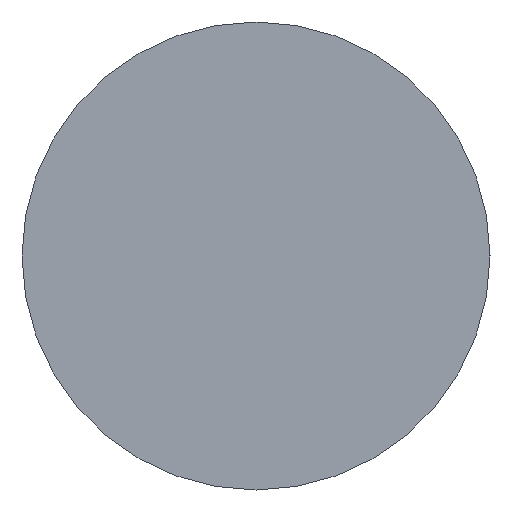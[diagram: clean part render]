
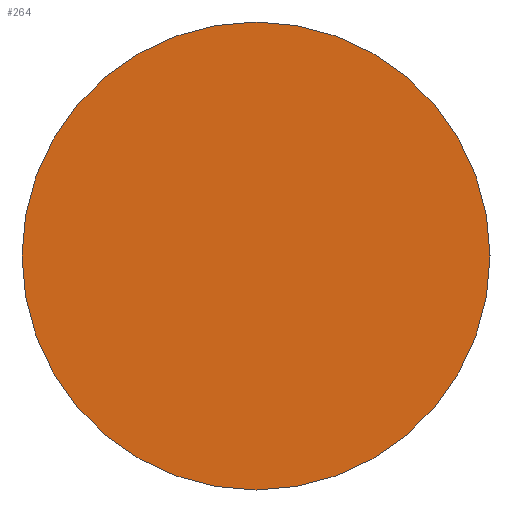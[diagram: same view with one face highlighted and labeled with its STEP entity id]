
A CAD part, left-side view. The second image highlights one B-rep face of the part: STEP entity #264.
In plain terms, the highlighted planar face has unit normal (-1, 0, 0).
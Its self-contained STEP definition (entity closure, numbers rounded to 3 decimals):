
#3 = ORIENTED_EDGE ( 'NONE', *, *, #251, .F. ) ;
#5 = PLANE ( 'NONE',  #139 ) ;
#8 = DIRECTION ( 'NONE',  ( 0., -1., 0. ) ) ;
#9 = CARTESIAN_POINT ( 'NONE',  ( 0., 0., 0. ) ) ;
#10 = DIRECTION ( 'NONE',  ( 1., 0., 0. ) ) ;
#14 = CARTESIAN_POINT ( 'NONE',  ( 0., 0., 0. ) ) ;
#35 = AXIS2_PLACEMENT_3D ( 'NONE', #102, #184, #84 ) ;
#36 = CARTESIAN_POINT ( 'NONE',  ( 0., 9., 0. ) ) ;
#39 = AXIS2_PLACEMENT_3D ( 'NONE', #9, #10, #250 ) ;
#45 = VERTEX_POINT ( 'NONE', #36 ) ;
#84 = DIRECTION ( 'NONE',  ( 0., 1., 0. ) ) ;
#102 = CARTESIAN_POINT ( 'NONE',  ( 0., 0., 0. ) ) ;
#124 = CARTESIAN_POINT ( 'NONE',  ( 0., -9., 0. ) ) ;
#125 = EDGE_CURVE ( 'NONE', #45, #157, #243, .T. ) ;
#132 = FACE_OUTER_BOUND ( 'NONE', #180, .T. ) ;
#139 = AXIS2_PLACEMENT_3D ( 'NONE', #14, #193, #8 ) ;
#157 = VERTEX_POINT ( 'NONE', #124 ) ;
#180 = EDGE_LOOP ( 'NONE', ( #247, #3 ) ) ;
#184 = DIRECTION ( 'NONE',  ( 1., 0., 0. ) ) ;
#186 = CIRCLE ( 'NONE', #39, 9. ) ;
#193 = DIRECTION ( 'NONE',  ( -1., 0., 0. ) ) ;
#243 = CIRCLE ( 'NONE', #35, 9. ) ;
#247 = ORIENTED_EDGE ( 'NONE', *, *, #125, .F. ) ;
#250 = DIRECTION ( 'NONE',  ( 0., 1., 0. ) ) ;
#251 = EDGE_CURVE ( 'NONE', #157, #45, #186, .T. ) ;
#264 = ADVANCED_FACE ( 'NONE', ( #132 ), #5, .T. ) ;
